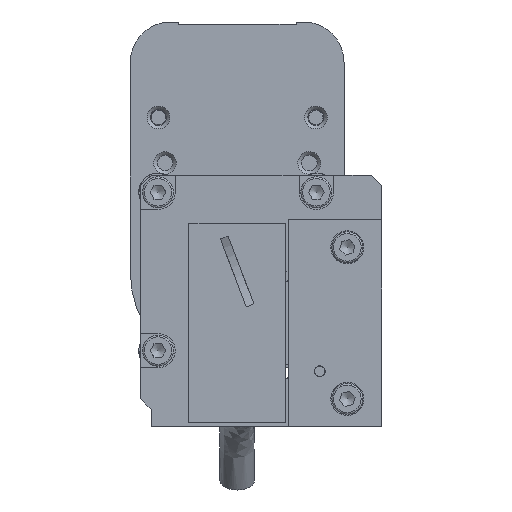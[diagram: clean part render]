
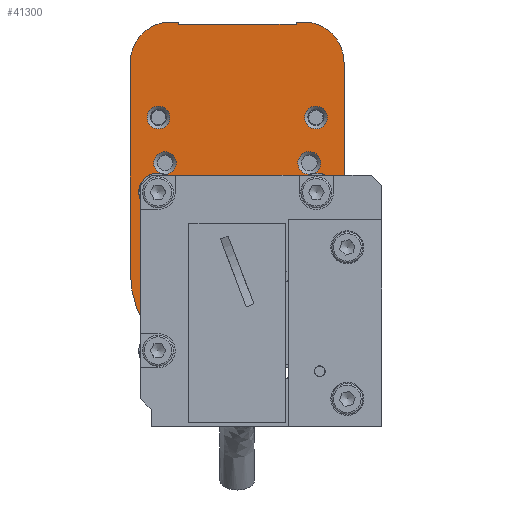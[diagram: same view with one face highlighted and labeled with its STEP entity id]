
A CAD part, left-side view. The second image highlights one B-rep face of the part: STEP entity #41300.
In plain terms, the highlighted planar face has unit normal (-1, 0, 0).
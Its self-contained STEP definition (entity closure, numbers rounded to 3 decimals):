
#1204=ELLIPSE($,#44203,0.203,0.203);
#1207=ELLIPSE($,#44207,0.203,0.203);
#2333=CIRCLE($,#44277,5.875);
#2335=CIRCLE($,#44280,5.875);
#2337=CIRCLE($,#44285,15.527);
#2341=CIRCLE($,#44313,13.);
#2342=CIRCLE($,#44314,1.651);
#2343=CIRCLE($,#44315,1.651);
#2344=CIRCLE($,#44316,1.651);
#2345=CIRCLE($,#44317,1.651);
#5950=FACE_BOUND($,#7687,.T.);
#5951=FACE_BOUND($,#7688,.T.);
#5952=FACE_BOUND($,#7689,.T.);
#5953=FACE_BOUND($,#7690,.T.);
#5954=FACE_BOUND($,#7691,.T.);
#5955=FACE_BOUND($,#7692,.T.);
#7687=EDGE_LOOP($,(#29949));
#7688=EDGE_LOOP($,(#29950));
#7689=EDGE_LOOP($,(#29951));
#7690=EDGE_LOOP($,(#29952));
#7691=EDGE_LOOP($,(#29953));
#7692=EDGE_LOOP($,(#29954,#29955,#29956,#29957,#29958,#29959,#29960,#29961,
#29962,#29963,#29964,#29965));
#11103=LINE($,#64066,#14491);
#11110=LINE($,#64078,#14498);
#11113=LINE($,#64082,#14501);
#11153=LINE($,#64207,#14541);
#11157=LINE($,#64214,#14545);
#11172=LINE($,#64247,#14560);
#11188=LINE($,#64283,#14576);
#14491=VECTOR($,#51065,0.102);
#14498=VECTOR($,#51074,17.129);
#14501=VECTOR($,#51079,0.102);
#14541=VECTOR($,#51209,30.353);
#14545=VECTOR($,#51215,30.353);
#14560=VECTOR($,#51252,0.884);
#14576=VECTOR($,#51300,0.884);
#17739=VERTEX_POINT($,#63929);
#17740=VERTEX_POINT($,#63930);
#17745=VERTEX_POINT($,#63941);
#17746=VERTEX_POINT($,#63943);
#17785=VERTEX_POINT($,#64065);
#17789=VERTEX_POINT($,#64076);
#17822=VERTEX_POINT($,#64189);
#17823=VERTEX_POINT($,#64191);
#17825=VERTEX_POINT($,#64196);
#17827=VERTEX_POINT($,#64200);
#17829=VERTEX_POINT($,#64206);
#17831=VERTEX_POINT($,#64212);
#17844=VERTEX_POINT($,#64294);
#17845=VERTEX_POINT($,#64296);
#17846=VERTEX_POINT($,#64298);
#17847=VERTEX_POINT($,#64300);
#17848=VERTEX_POINT($,#64302);
#22101=EDGE_CURVE($,#17739,#17740,#1204,.F.);
#22107=EDGE_CURVE($,#17746,#17745,#1207,.F.);
#22167=EDGE_CURVE($,#17740,#17785,#11103,.F.);
#22174=EDGE_CURVE($,#17785,#17789,#11110,.F.);
#22177=EDGE_CURVE($,#17789,#17746,#11113,.F.);
#22229=EDGE_CURVE($,#17822,#17823,#2333,.T.);
#22234=EDGE_CURVE($,#17825,#17827,#2335,.F.);
#22236=EDGE_CURVE($,#17825,#17829,#11153,.F.);
#22240=EDGE_CURVE($,#17831,#17822,#11157,.F.);
#22242=EDGE_CURVE($,#17829,#17831,#2337,.T.);
#22258=EDGE_CURVE($,#17827,#17739,#11172,.T.);
#22277=EDGE_CURVE($,#17745,#17823,#11188,.T.);
#22284=EDGE_CURVE($,#17844,#17844,#2341,.T.);
#22285=EDGE_CURVE($,#17845,#17845,#2342,.T.);
#22286=EDGE_CURVE($,#17846,#17846,#2343,.T.);
#22287=EDGE_CURVE($,#17847,#17847,#2344,.T.);
#22288=EDGE_CURVE($,#17848,#17848,#2345,.T.);
#29949=ORIENTED_EDGE($,*,*,#22284,.T.);
#29950=ORIENTED_EDGE($,*,*,#22285,.F.);
#29951=ORIENTED_EDGE($,*,*,#22286,.T.);
#29952=ORIENTED_EDGE($,*,*,#22287,.T.);
#29953=ORIENTED_EDGE($,*,*,#22288,.F.);
#29954=ORIENTED_EDGE($,*,*,#22177,.T.);
#29955=ORIENTED_EDGE($,*,*,#22107,.T.);
#29956=ORIENTED_EDGE($,*,*,#22277,.T.);
#29957=ORIENTED_EDGE($,*,*,#22229,.F.);
#29958=ORIENTED_EDGE($,*,*,#22240,.F.);
#29959=ORIENTED_EDGE($,*,*,#22242,.F.);
#29960=ORIENTED_EDGE($,*,*,#22236,.F.);
#29961=ORIENTED_EDGE($,*,*,#22234,.T.);
#29962=ORIENTED_EDGE($,*,*,#22258,.T.);
#29963=ORIENTED_EDGE($,*,*,#22101,.T.);
#29964=ORIENTED_EDGE($,*,*,#22167,.T.);
#29965=ORIENTED_EDGE($,*,*,#22174,.T.);
#37411=PLANE($,#44312);
#41300=ADVANCED_FACE($,(#5950,#5951,#5952,#5953,#5954,#5955),#37411,.F.);
#44203=AXIS2_PLACEMENT_3D($,#63931,#50943,#50944);
#44207=AXIS2_PLACEMENT_3D($,#63944,#50954,#50955);
#44277=AXIS2_PLACEMENT_3D($,#64192,#51195,#51196);
#44280=AXIS2_PLACEMENT_3D($,#64202,#51204,#51205);
#44285=AXIS2_PLACEMENT_3D($,#64217,#51220,#51221);
#44312=AXIS2_PLACEMENT_3D($,#64293,#51311,#51312);
#44313=AXIS2_PLACEMENT_3D($,#64295,#51313,#51314);
#44314=AXIS2_PLACEMENT_3D($,#64297,#51315,#51316);
#44315=AXIS2_PLACEMENT_3D($,#64299,#51317,#51318);
#44316=AXIS2_PLACEMENT_3D($,#64301,#51319,#51320);
#44317=AXIS2_PLACEMENT_3D($,#64303,#51321,#51322);
#50943=DIRECTION('center_axis',(1.,0.,0.));
#50944=DIRECTION('ref_axis',(0.,-0.707,
-0.707));
#50954=DIRECTION('center_axis',(1.,0.,0.));
#50955=DIRECTION('ref_axis',(0.,-0.707,0.707));
#51065=DIRECTION($,(0.,0.,1.));
#51074=DIRECTION($,(0.,-1.,0.));
#51079=DIRECTION($,(0.,0.,-1.));
#51195=DIRECTION('center_axis',(1.,0.,0.));
#51196=DIRECTION('ref_axis',(0.,-1.,0.));
#51204=DIRECTION('center_axis',(1.,0.,0.));
#51205=DIRECTION('ref_axis',(0.,-1.,0.));
#51209=DIRECTION($,(0.,0.,1.));
#51215=DIRECTION($,(0.,0.,-1.));
#51220=DIRECTION('center_axis',(1.,0.,0.));
#51221=DIRECTION('ref_axis',(0.,-1.,0.));
#51252=DIRECTION($,(0.,1.,0.));
#51300=DIRECTION($,(0.,1.,0.));
#51311=DIRECTION('center_axis',(1.,0.,0.));
#51312=DIRECTION('ref_axis',(0.,0.,1.));
#51313=DIRECTION('center_axis',(1.,0.,0.));
#51314=DIRECTION('ref_axis',(0.,0.,
1.));
#51315=DIRECTION('center_axis',(-1.,0.,0.));
#51316=DIRECTION('ref_axis',(0.,-1.,0.));
#51317=DIRECTION('center_axis',(1.,0.,0.));
#51318=DIRECTION('ref_axis',(0.,-1.,0.));
#51319=DIRECTION('center_axis',(1.,0.,0.));
#51320=DIRECTION('ref_axis',(0.,-1.,0.));
#51321=DIRECTION('center_axis',(-1.,0.,0.));
#51322=DIRECTION('ref_axis',(0.,1.,0.));
#63929=CARTESIAN_POINT('',(77.425,-34.705,79.582));
#63930=CARTESIAN_POINT('',(77.425,-34.502,79.379));
#63931=CARTESIAN_POINT('Origin',(77.425,-34.706,79.379));
#63941=CARTESIAN_POINT('',(77.425,-17.17,79.582));
#63943=CARTESIAN_POINT('',(77.425,-17.373,79.379));
#63944=CARTESIAN_POINT('Origin',(77.425,-17.17,79.379));
#64065=CARTESIAN_POINT('',(77.425,-34.502,79.278));
#64066=CARTESIAN_POINT($,(77.425,-34.502,79.278));
#64076=CARTESIAN_POINT('',(77.425,-17.373,79.278));
#64078=CARTESIAN_POINT($,(77.425,-17.373,79.278));
#64082=CARTESIAN_POINT($,(77.425,-17.373,79.379));
#64189=CARTESIAN_POINT('',(77.425,-10.41,73.707));
#64191=CARTESIAN_POINT('',(77.425,-16.286,79.582));
#64192=CARTESIAN_POINT('Origin',(77.425,-16.286,73.707));
#64196=CARTESIAN_POINT('',(77.425,-41.465,73.707));
#64200=CARTESIAN_POINT('',(77.425,-35.59,79.582));
#64202=CARTESIAN_POINT('Origin',(77.425,-35.59,73.707));
#64206=CARTESIAN_POINT('',(77.425,-41.465,43.354));
#64207=CARTESIAN_POINT($,(77.425,-41.465,43.354));
#64212=CARTESIAN_POINT('',(77.425,-10.41,43.354));
#64214=CARTESIAN_POINT($,(77.425,-10.41,73.707));
#64217=CARTESIAN_POINT('Origin',(77.425,-25.938,43.354));
#64247=CARTESIAN_POINT($,(77.425,-35.59,79.582));
#64283=CARTESIAN_POINT($,(77.425,-17.17,79.582));
#64293=CARTESIAN_POINT('Origin',(77.425,-25.938,43.354));
#64294=CARTESIAN_POINT('',(77.425,-25.938,30.354));
#64295=CARTESIAN_POINT('Origin',(77.425,-25.938,43.354));
#64296=CARTESIAN_POINT('',(77.425,-16.159,65.706));
#64297=CARTESIAN_POINT('Origin',(77.425,-14.508,65.706));
#64298=CARTESIAN_POINT('',(77.425,-14.9,57.549));
#64299=CARTESIAN_POINT('Origin',(77.425,-15.46,59.102));
#64300=CARTESIAN_POINT('',(77.425,-37.336,57.732));
#64301=CARTESIAN_POINT('Origin',(77.425,-36.415,59.102));
#64302=CARTESIAN_POINT('',(77.425,-35.717,65.706));
#64303=CARTESIAN_POINT('Origin',(77.425,-37.368,65.706));
